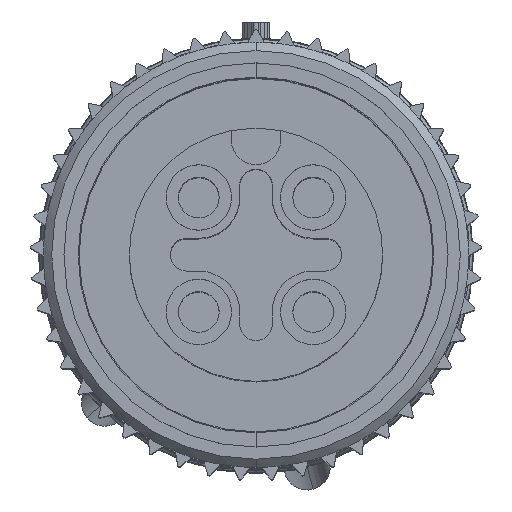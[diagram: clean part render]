
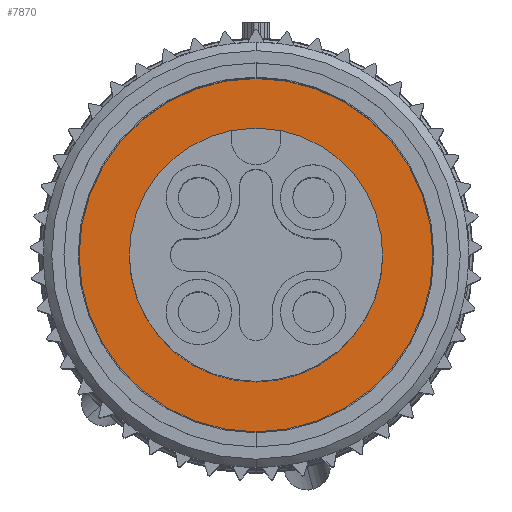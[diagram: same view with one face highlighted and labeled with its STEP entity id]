
A CAD part, top view. The second image highlights one B-rep face of the part: STEP entity #7870.
In plain terms, the highlighted planar face has unit normal (0, 0, 1).
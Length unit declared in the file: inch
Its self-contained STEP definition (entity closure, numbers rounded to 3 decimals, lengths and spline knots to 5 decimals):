
#11=CARTESIAN_POINT('',(0.,0.,-0.5));
#12=DIRECTION('',(0.,0.,1.));
#13=DIRECTION('',(0.,1.,0.));
#14=AXIS2_PLACEMENT_3D('',#11,#12,#13);
#38=CARTESIAN_POINT('',(0.,0.,-0.5));
#39=DIRECTION('',(0.,0.,-1.));
#40=DIRECTION('',(0.,1.,0.));
#41=AXIS2_PLACEMENT_3D('',#38,#39,#40);
#51=CARTESIAN_POINT('',(0.,0.,-0.5));
#52=DIRECTION('',(0.,0.,1.));
#53=DIRECTION('',(0.,1.,0.));
#54=AXIS2_PLACEMENT_3D('',#51,#52,#53);
#56=CARTESIAN_POINT('',(0.,0.,-0.5));
#57=DIRECTION('',(0.,0.,-1.));
#58=DIRECTION('',(0.,1.,0.));
#59=AXIS2_PLACEMENT_3D('',#56,#57,#58);
#6337=CARTESIAN_POINT('',(0.,0.2165,-0.5));
#6338=CARTESIAN_POINT('',(0.,-0.2165,-0.5));
#6339=VERTEX_POINT('',#6337);
#6340=VERTEX_POINT('',#6338);
#6341=CARTESIAN_POINT('',(0.,-0.155,-0.5));
#6343=VERTEX_POINT('',#6341);
#6345=CARTESIAN_POINT('',(0.,0.155,-0.5));
#6346=VERTEX_POINT('',#6345);
#7855=CARTESIAN_POINT('',(0.,0.,-0.5));
#7856=DIRECTION('',(0.,0.,1.));
#7857=DIRECTION('',(0.,1.,0.));
#7858=AXIS2_PLACEMENT_3D('',#7855,#7856,#7857);
#7859=PLANE('',#7858);
#7861=ORIENTED_EDGE('',*,*,#7860,.F.);
#7863=ORIENTED_EDGE('',*,*,#7862,.T.);
#7864=EDGE_LOOP('',(#7861,#7863));
#7865=FACE_OUTER_BOUND('',#7864,.F.);
#7866=ORIENTED_EDGE('',*,*,#7845,.F.);
#7867=ORIENTED_EDGE('',*,*,#7814,.T.);
#7868=EDGE_LOOP('',(#7866,#7867));
#7869=FACE_BOUND('',#7868,.F.);
#7870=ADVANCED_FACE('',(#7865,#7869),#7859,.T.);
#15=CIRCLE('',#14,0.155);
#42=CIRCLE('',#41,0.155);
#55=CIRCLE('',#54,0.2165);
#60=CIRCLE('',#59,0.2165);
#7814=EDGE_CURVE('',#6346,#6343,#15,.T.);
#7845=EDGE_CURVE('',#6346,#6343,#42,.T.);
#7860=EDGE_CURVE('',#6339,#6340,#55,.T.);
#7862=EDGE_CURVE('',#6339,#6340,#60,.T.);
